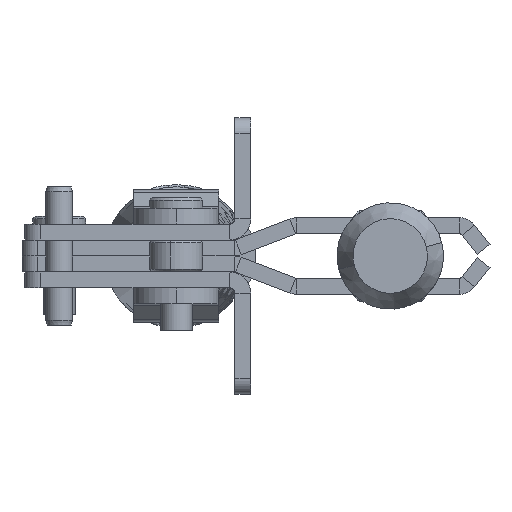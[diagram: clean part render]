
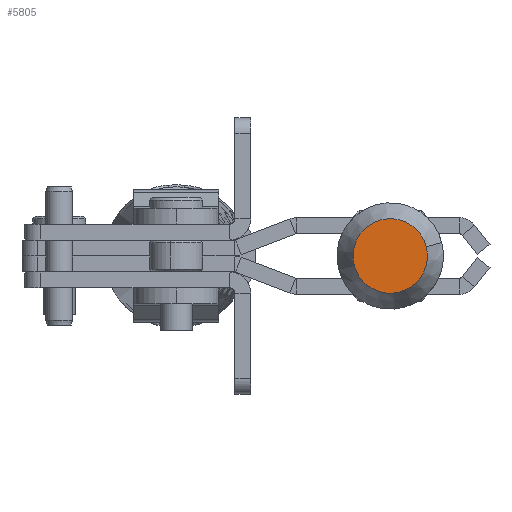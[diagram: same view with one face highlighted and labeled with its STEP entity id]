
A CAD part, front view. The second image highlights one B-rep face of the part: STEP entity #5805.
In plain terms, the highlighted planar face has unit normal (0, -1, 0).
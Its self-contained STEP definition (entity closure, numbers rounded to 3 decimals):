
#575 = ORIENTED_EDGE ( 'NONE', *, *, #23793, .F. ) ;
#767 = CIRCLE ( 'NONE', #19412, 7. ) ;
#1937 = CARTESIAN_POINT ( 'NONE',  ( 0., 0., 0. ) ) ;
#3197 = AXIS2_PLACEMENT_3D ( 'NONE', #11596, #23828, #31996 ) ;
#4370 = ORIENTED_EDGE ( 'NONE', *, *, #6156, .F. ) ;
#5206 = CARTESIAN_POINT ( 'NONE',  ( 7., 0., 0. ) ) ;
#5805 = ADVANCED_FACE ( 'NONE', ( #26049 ), #10506, .T. ) ;
#6156 = EDGE_CURVE ( 'NONE', #28113, #23355, #767, .T. ) ;
#10506 = PLANE ( 'NONE',  #32792 ) ;
#11596 = CARTESIAN_POINT ( 'NONE',  ( 0., 0., 0. ) ) ;
#11794 = DIRECTION ( 'NONE',  ( -1., 0., 0. ) ) ;
#13337 = CARTESIAN_POINT ( 'NONE',  ( -7., 0., 0. ) ) ;
#17642 = DIRECTION ( 'NONE',  ( 0., 1., 0. ) ) ;
#19412 = AXIS2_PLACEMENT_3D ( 'NONE', #1937, #17642, #11794 ) ;
#22402 = CIRCLE ( 'NONE', #3197, 7. ) ;
#22755 = EDGE_LOOP ( 'NONE', ( #4370, #575 ) ) ;
#23355 = VERTEX_POINT ( 'NONE', #5206 ) ;
#23365 = DIRECTION ( 'NONE',  ( 0., 0., -1. ) ) ;
#23793 = EDGE_CURVE ( 'NONE', #23355, #28113, #22402, .T. ) ;
#23828 = DIRECTION ( 'NONE',  ( 0., 1., 0. ) ) ;
#25888 = DIRECTION ( 'NONE',  ( 0., -1., 0. ) ) ;
#26049 = FACE_OUTER_BOUND ( 'NONE', #22755, .T. ) ;
#28113 = VERTEX_POINT ( 'NONE', #29015 ) ;
#29015 = CARTESIAN_POINT ( 'NONE',  ( -7., 0., 0. ) ) ;
#31996 = DIRECTION ( 'NONE',  ( -1., 0., 0. ) ) ;
#32792 = AXIS2_PLACEMENT_3D ( 'NONE', #13337, #25888, #23365 ) ;
